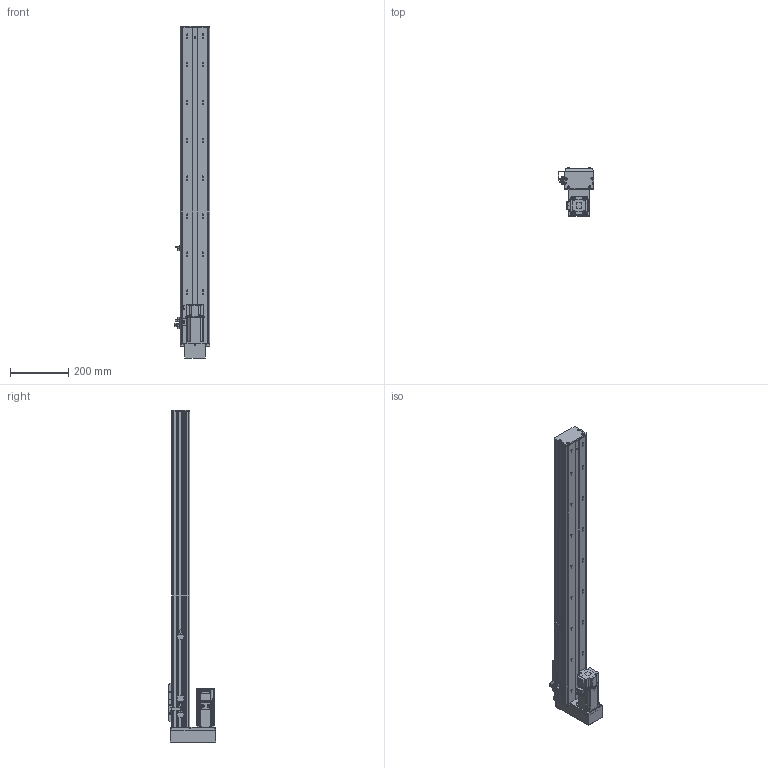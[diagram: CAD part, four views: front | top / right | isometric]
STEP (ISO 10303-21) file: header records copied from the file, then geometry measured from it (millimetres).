
FILE_DESCRIPTION (( 'STEP AP203' ), '1' );
FILE_NAME ('BOSW100-900-1610-1P-DM-M400W-O-S3（方程式2016）.step', '2020-10-10T06:48:28', ( '' ), ( '' ), 'SwSTEP 2.0', 'SolidWorks 2016', '' );
FILE_SCHEMA (( 'CONFIG_CONTROL_DESIGN' ));
Length unit declared in the file: millimetre
Products named in the file (14): 俋境嫖覜嘐隅啣; BOS-100-DM鎮湛假蚾啣; S400W(SMA-L040); BOSW&TW-100-詩湍揤沭(陔賦凳); BOSW-100-1P-DM-900諦誧芞; BOSW&TW-100-俋离覜茼え; BOSW-100-綴裔啣; BOSW-100-1P-DM-宽轨-侧板-900客户图纸; BOS100-DM鎮湛欶; 放大器内置U型微型光电传感器PM-L65; BOSW&TW-100-1P-賑雄釱欶; BOSW-100-1P-DM-宽轨-钢带-900客户图纸; BOSW100-900-1610-1P-DM-M400W-O-S3（方程式2016）; 新结构AIMSW-100-1P-宽&高轨共用-滑动座上组件
Assembly tree (19 placements, depth 2):
  BOSW100-900-1610-1P-DM-M400W-O-S3（方程式2016）
    BOSW-100-1P-DM-900諦誧芞
    BOSW-100-綴裔啣
    新结构AIMSW-100-1P-宽&高轨共用-滑动座上组件
    S400W(SMA-L040)
    BOSW&TW-100-詩湍揤沭(陔賦凳)  x2
    BOSW&TW-100-1P-賑雄釱欶
    BOSW&TW-100-俋离覜茼え
    俋境嫖覜嘐隅啣  x3
    放大器内置U型微型光电传感器PM-L65  x3
    BOSW-100-1P-DM-宽轨-侧板-900客户图纸  x2
    BOSW-100-1P-DM-宽轨-钢带-900客户图纸
    BOS100-DM鎮湛欶
    BOS-100-DM鎮湛假蚾啣
Bounding box: 120.9 x 164 x 1136 mm (x, y, z)
Volume: 2467460.7 mm3; surface area: 1140776.2 mm2
Topology: 19 solids, 19 shells, 2582 faces, 6824 edges, 4365 vertices
Faces by surface type: plane 1271, cylinder 835, bspline 271, cone 157, torus 36, sphere 12
Entity records: 71311 total; most frequent: CARTESIAN_POINT 21214, ORIENTED_EDGE 10204, DIRECTION 9898, EDGE_CURVE 5102, AXIS2_PLACEMENT_3D 3514, VERTEX_POINT 3267, VECTOR 2870, LINE 2870
